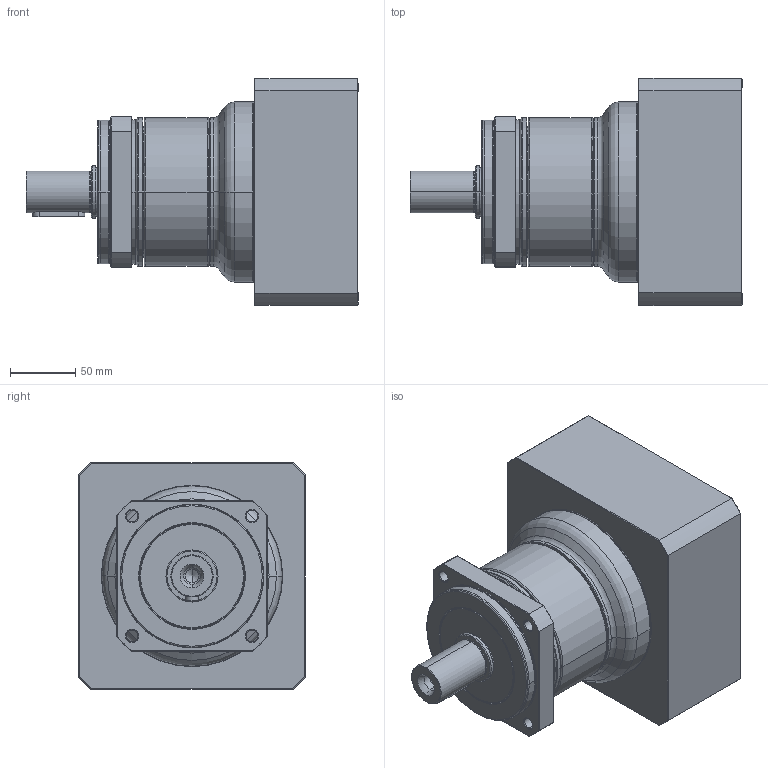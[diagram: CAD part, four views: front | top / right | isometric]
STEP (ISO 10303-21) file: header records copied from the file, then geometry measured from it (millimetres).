
FILE_DESCRIPTION((''),'2;1');
FILE_NAME('PA2-115_1ST_38-P0411900101_ASM','2016-05-06T',('d01943'),(''),'PRO/ENGINEER BY PARAMETRIC TECHNOLOGY CORPORATION, 2008410','PRO/ENGINEER BY PARAMETRIC TECHNOLOGY CORPORATION, 2008410','');
FILE_SCHEMA(('CONFIG_CONTROL_DESIGN'));
Length unit declared in the file: millimetre
Products named in the file (9): P1327410001; P0250400001; P1324400501; P0350400601; P0941405001; P0503900010; P0411900101; P1702600001; PA2-115_1ST_38-P0411900101_ASM
Assembly tree (8 placements, depth 2):
  PA2-115_1ST_38-P0411900101_ASM
    P1327410001
    P0250400001
    P1324400501
    P0350400601
    P0941405001
    P0503900010
    P0411900101
    P1702600001
Bounding box: 254.5 x 174 x 174 mm (x, y, z)
Volume: 2915348.3 mm3; surface area: 343994.5 mm2
Topology: 8 solids, 8 shells, 463 faces, 1012 edges, 584 vertices
Faces by surface type: cone 144, cylinder 129, torus 88, plane 86, bspline 16
Entity records: 17359 total; most frequent: CARTESIAN_POINT 6943, DIRECTION 2356, ORIENTED_EDGE 1984, AXIS2_PLACEMENT_3D 1005, EDGE_CURVE 992, VERTEX_POINT 584, CIRCLE 541, EDGE_LOOP 526
